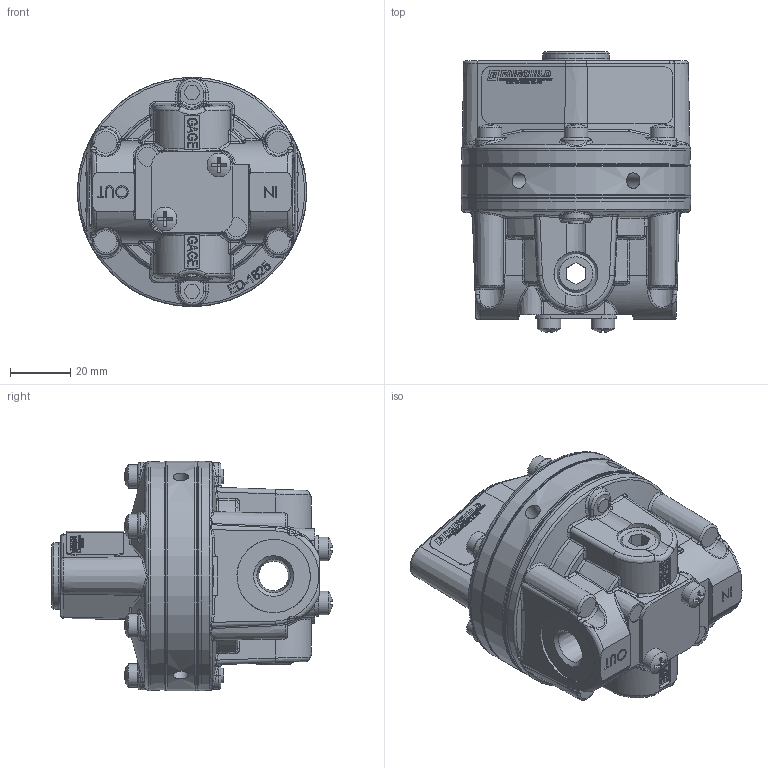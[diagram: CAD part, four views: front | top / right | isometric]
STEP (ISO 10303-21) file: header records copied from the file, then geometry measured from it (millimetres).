
FILE_DESCRIPTION(/* description */ (''),/* implementation_level */ '2;1');
FILE_NAME(/* name */ 'U:/AirCom-Produktdokumentation/Druckregler/DB208/Zeichnungen/CAD-Aircom/3D/B-DB208-xx.step',/* time_stamp */ '2022-08-16T09:07:30+02:00',/* author */ (''),/* organization */ (''),/* preprocessor_version */ 'ST-DEVELOPER v19',/* originating_system */ 'Autodesk Translation Framework v11.7.0.108',/* authorisation */ '');
FILE_SCHEMA (('AUTOMOTIVE_DESIGN { 1 0 10303 214 3 1 1 }'));
Products named in the file (1): M20BP STEP FILE
Bounding box: 76.27 x 93.31 x 76.27 mm (x, y, z)
Surface area: 43482.2 mm2 (no closed solid volume)
Topology: 0 solids, 41 shells, 968 faces, 3707 edges, 2724 vertices
Faces by surface type: plane 405, bspline 312, cylinder 83, cone 72, torus 57, sphere 39
Full cylindrical faces by diameter (mm): 0.835 x2, 4.826 x2, 5.16 x4, 6.35 x2, 7.95 x8, 24.384 x2, 76.2 x3
Entity records: 76378 total; most frequent: CARTESIAN_POINT 48624, ORIENTED_EDGE 5734, DIRECTION 4635, EDGE_CURVE 3691, VERTEX_POINT 2724, LINE 1613, VECTOR 1613, AXIS2_PLACEMENT_3D 1511
